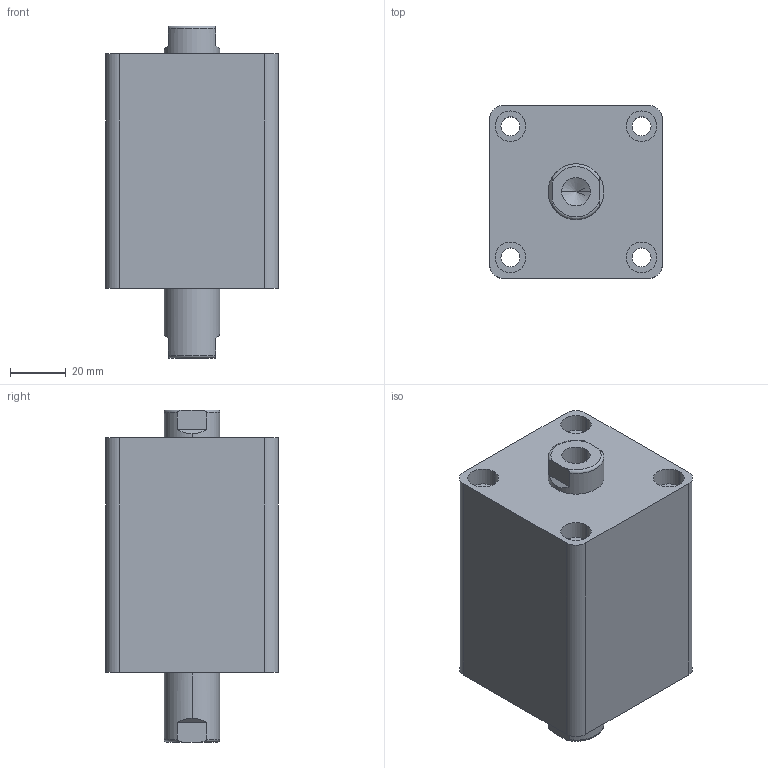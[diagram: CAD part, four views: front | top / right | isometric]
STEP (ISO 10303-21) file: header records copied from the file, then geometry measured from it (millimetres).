
FILE_DESCRIPTION (( 'STEP AP203' ), '1' );
FILE_NAME ('HTB-SW32-15N.STEP', '2019-10-07T08:50:35', ( '微软用户' ), ( '微软中国' ), 'SwSTEP 2.0', 'SolidWorks 2012', '' );
FILE_SCHEMA (( 'CONFIG_CONTROL_DESIGN' ));
Length unit declared in the file: millimetre
Products named in the file (3): HTB-SW32-15N; HTB-SW32-15N活塞杆; HTB-SW32-15掛极
Assembly tree (2 placements, depth 2):
  HTB-SW32-15N
    HTB-SW32-15掛极
    HTB-SW32-15N活塞杆
Bounding box: 62 x 62 x 119 mm (x, y, z)
Volume: 304325.9 mm3; surface area: 53521.9 mm2
Topology: 2 solids, 2 shells, 100 faces, 228 edges, 146 vertices
Faces by surface type: cylinder 48, plane 32, torus 12, cone 8
Entity records: 3237 total; most frequent: CARTESIAN_POINT 595, DIRECTION 542, ORIENTED_EDGE 448, AXIS2_PLACEMENT_3D 229, EDGE_CURVE 224, VERTEX_POINT 146, EDGE_LOOP 128, CIRCLE 124
